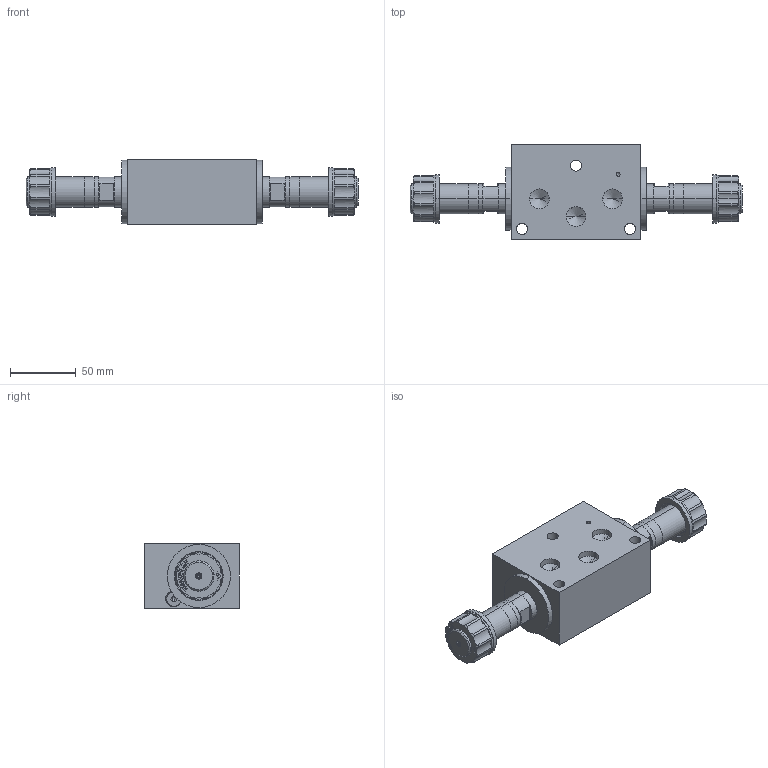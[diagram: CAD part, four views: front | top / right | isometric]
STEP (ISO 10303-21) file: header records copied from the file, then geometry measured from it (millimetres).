
FILE_DESCRIPTION (( 'STEP AP214' ), '1' );
FILE_NAME ('Control Section CMVA-MA06-B actuation at A and B.STEP', '2025-11-12T13:27:53', ( '' ), ( '' ), 'SwSTEP 2.0', 'SolidWorks 2024', '' );
FILE_SCHEMA (( 'AUTOMOTIVE_DESIGN' ));
Length unit declared in the file: millimetre
Products named in the file (1): Control Section CMVA-MA06-B actuation at A and B
Bounding box: 252.5 x 72 x 49 mm (x, y, z)
Volume: 386008 mm3; surface area: 90149.8 mm2
Topology: 27 solids, 27 shells, 1736 faces, 4258 edges, 2642 vertices
Faces by surface type: plane 982, cylinder 330, cone 245, bspline 95, torus 84
Entity records: 54289 total; most frequent: CARTESIAN_POINT 13068, DIRECTION 8580, ORIENTED_EDGE 8436, EDGE_CURVE 4218, AXIS2_PLACEMENT_3D 2982, VERTEX_POINT 2642, LINE 2616, VECTOR 2616
